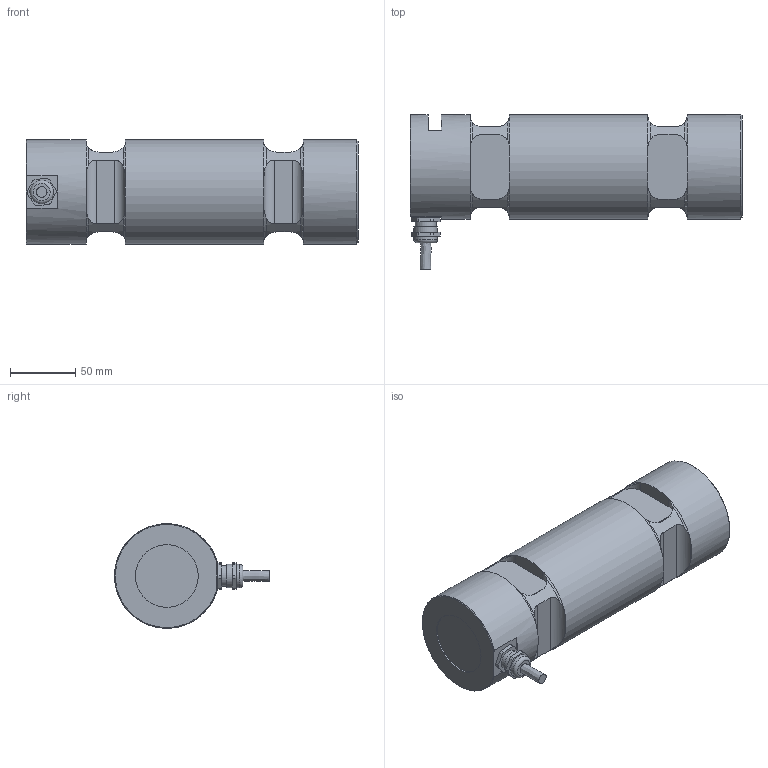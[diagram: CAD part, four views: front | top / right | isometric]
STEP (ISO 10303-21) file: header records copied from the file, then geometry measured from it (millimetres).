
FILE_DESCRIPTION(/* description */ ('Alibre Inc.'),/* implementation_level */ '2;1');
FILE_NAME(/* name */ 'export-27F88FB2-FEB3-467F-9FD1-5FD19BEAE3E9',/* time_stamp */ '2020-02-20T15:03:01+01:00',/* author */ (''),/* organization */ (''),/* preprocessor_version */ 'ST-DEVELOPER v17',/* originating_system */ 'Alibre',/* authorisation */ '');
FILE_SCHEMA (('CONFIG_CONTROL_DESIGN'));
Length unit declared in the file: centimetre
Bounding box: 254 x 118.45 x 80 mm (x, y, z)
Volume: 1182121.9 mm3; surface area: 88835.5 mm2
Topology: 5 solids, 5 shells, 168 faces, 406 edges, 255 vertices
Faces by surface type: plane 73, cylinder 60, torus 20, cone 12, sphere 2, bspline 1
Full cylindrical faces by diameter (mm): 8 x3, 9 x1, 14.5 x1, 16 x2, 18 x2, 20 x1, 48 x1, 80 x3
Entity records: 5721 total; most frequent: CARTESIAN_POINT 1709, ORIENTED_EDGE 746, DIRECTION 537, EDGE_CURVE 373, VERTEX_POINT 248, AXIS2_PLACEMENT_3D 225, FACE_BOUND 205, EDGE_LOOP 203
